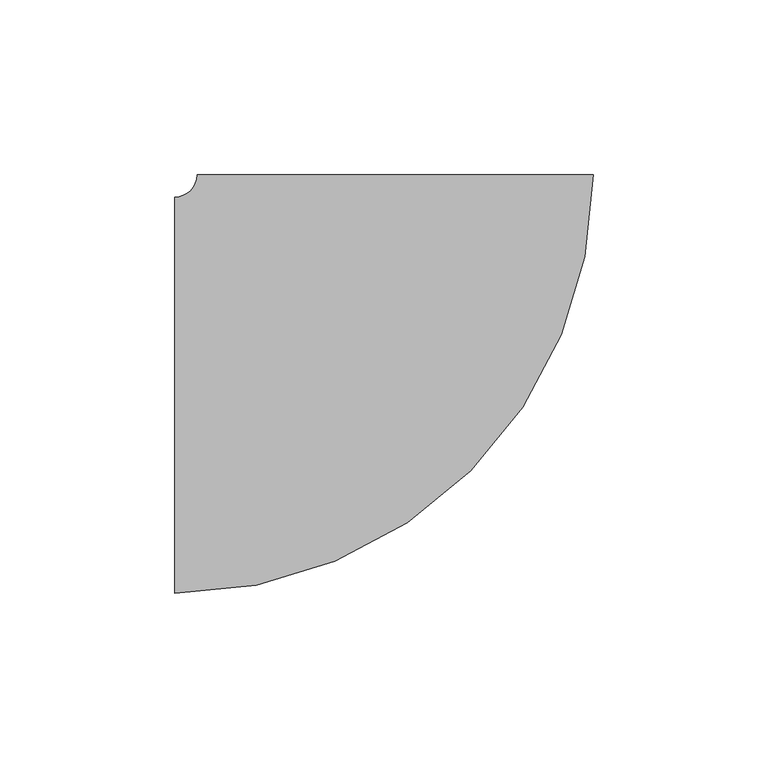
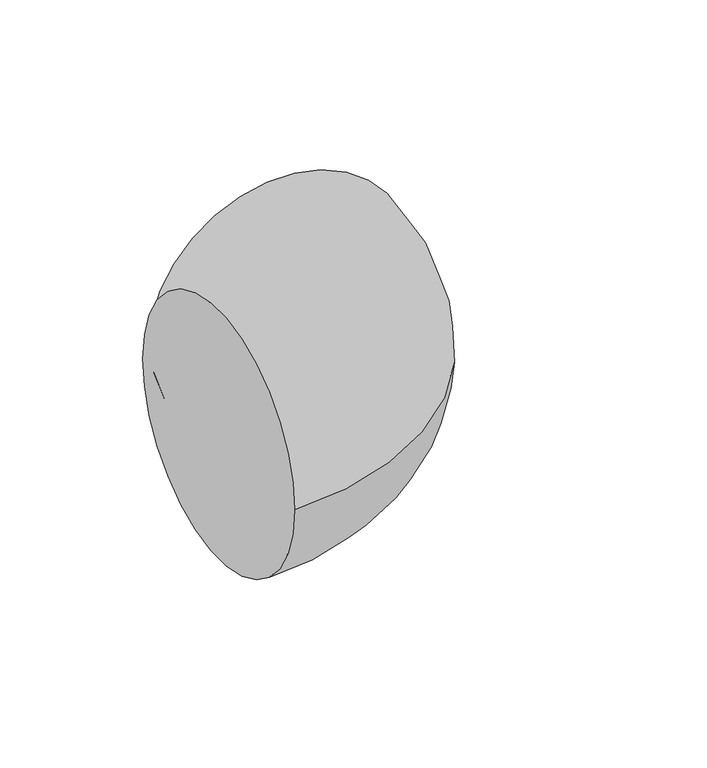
"""IFC4 building model written with IfcOpenShell, lengths in millimetres: pipe fitting geometry, M_Codo - Genérico : Estándar."""

from ifc_helpers import new_model, si_unit, point, frame, origin, place, context, project, spatial, circle_curve, ellipse_curve, trimmed, source, transform, mapped, element, save
from ifc_brep_helpers import plane_surface, revolved_surface, advanced_brep


def pipe_fitting_6ca4cbf4(model_context):
    return source(origin(), model_context, "Body", "AdvancedBrep", [
        advanced_brep(
        [(-62.9369157, -56.5875, 0.0), (-62.9369157, 56.5875, 0.0), (56.5880842, 62.9363904, 0.0), (-56.5869157, 62.9374411, 0.0)],
        [
            (0, 1, circle_curve(frame((-62.9369157, 0.0, 0.0), z_axis=(-1.0, 0.0, 0.0), x_axis=(0.0, 1.0, 0.0)), 56.5875)),
            (1, 0, circle_curve(frame((-62.9369157, 0.0, 0.0), z_axis=(-1.0, 0.0, 0.0), x_axis=(0.0, 1.0, 0.0)), 56.5875)),
            (2, 3, circle_curve(frame((0.0005843, 62.9369157, 0.0), z_axis=(9.28311229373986e-06, 0.9999999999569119, 0.0), x_axis=(-0.9999999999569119, 9.28311229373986e-06, 0.0)), 56.5875)),
            (3, 2, circle_curve(frame((0.0005843, 62.9369157, 0.0), z_axis=(9.28311229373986e-06, 0.9999999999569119, 0.0), x_axis=(-0.9999999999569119, 9.28311229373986e-06, 0.0)), 56.5875)),
            (3, 1, circle_curve(frame((-62.9369157, 62.9375, 0.0), z_axis=(0.0, 0.0, -1.0), x_axis=(0.0, -1.0, 0.0)), 6.35)),
            (0, 2, circle_curve(frame((-62.9369157, 62.9375, 0.0), z_axis=(0.0, 0.0, 1.0), x_axis=(0.0, -1.0, 0.0)), 119.525)),
        ],
        [
            plane_surface(frame((-62.9369157, 0.0, 0.0), z_axis=(-1.0, 0.0, 0.0), x_axis=(0.0, 0.0, 1.0))),
            plane_surface(frame((0.0005843, 62.9369157, 0.0), z_axis=(9.283112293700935e-06, 0.9999999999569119, 0.0), x_axis=(0.0, 0.0, 1.0))),
            revolved_surface(trimmed(ellipse_curve(frame((-62.9369157, 0.0, 0.0), z_axis=(-1.0, 0.0, 0.0), x_axis=(0.0, 1.0, 0.0)), 56.5875, 56.5875), [point((-62.9369157, -56.5875, 0.0))], [point((-62.9369157, 56.5875, 0.0))], True, "CARTESIAN"), (-62.9369157, 62.9375, 0.0), (0.0, 0.0, 1.0)),
            revolved_surface(trimmed(ellipse_curve(frame((-62.9369157, 0.0, 0.0), z_axis=(-1.0, 0.0, 0.0), x_axis=(0.0, 1.0, 0.0)), 56.5875, 56.5875), [point((-62.9369157, 56.5875, 0.0))], [point((-62.9369157, -56.5875, 0.0))], True, "CARTESIAN"), (-62.9369157, 62.9375, 0.0), (0.0, 0.0, 1.0)),
        ],
        [
            (0, [[1, 2]]),
            (1, [[3, 4]]),
            (2, [[5, -1, 6, -4]]),
            (3, [[-6, -2, -5, -3]]),
        ],
    ),
    ])


if __name__ == "__main__":
    model = new_model("IFC4")
    model_context = context("Model", 3, world=origin())
    ifc_project = project(units=[si_unit("LENGTHUNIT", "METRE", prefix="MILLI")], contexts=[model_context])
    site = spatial("IfcSite", under=ifc_project)
    building = spatial("IfcBuilding", under=site)
    placement = place(None, origin())
    pipe_fitting_shape = pipe_fitting_6ca4cbf4(model_context)
    element("IfcPipeFitting", 1, ObjectType="M_Codo - Genérico : Estándar", at=placement, inside=building, context=model_context, shape_type="MappedRepresentation", body=[
        mapped(pipe_fitting_shape, transform((0.0, 0.0, 0.0), x_axis=(1.0, 0.0, 0.0), y_axis=(0.0, 1.0, 0.0), z_axis=(0.0, 0.0, 1.0))),
    ])
    save(model, "model.ifc")
